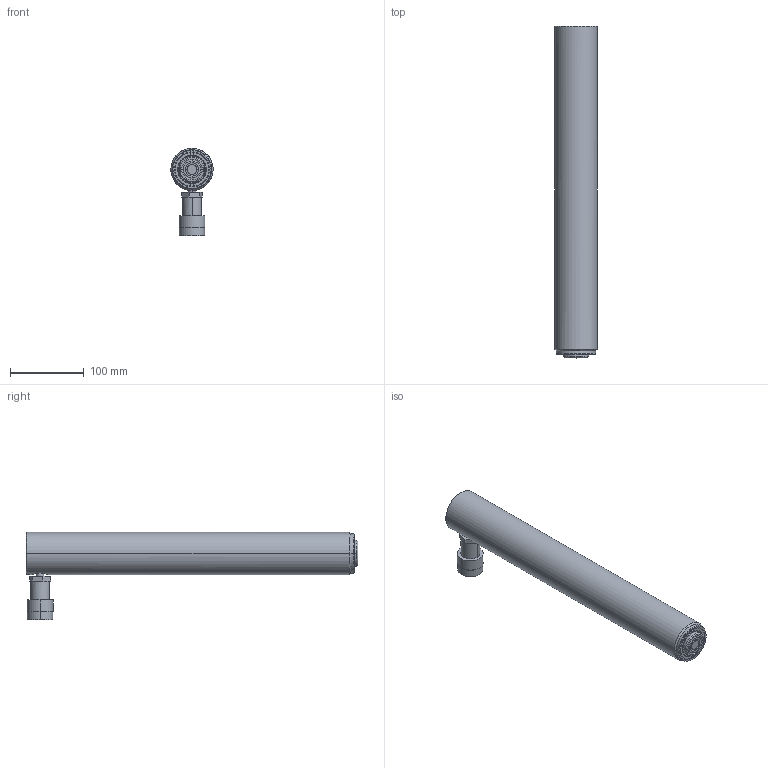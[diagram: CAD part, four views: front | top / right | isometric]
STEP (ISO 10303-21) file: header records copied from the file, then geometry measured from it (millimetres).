
FILE_DESCRIPTION((''),'2;1');
FILE_NAME('RC1014','2021-04-01T11:21:24',('mike.ward'),(''),'CREO PARAMETRIC BY PTC INC, 2018400','CREO PARAMETRIC BY PTC INC, 2018400','');
FILE_SCHEMA(('CONFIG_CONTROL_DESIGN'));
Length unit declared in the file: inch
Products named in the file (1): RC1014
Bounding box: 57.15 x 449.26 x 118.3 mm (x, y, z)
Volume: 480944.1 mm3; surface area: 225693.6 mm2
Topology: 1 solids, 23 shells, 169 faces, 414 edges, 264 vertices
Faces by surface type: cylinder 67, cone 42, plane 39, torus 21
Entity records: 5165 total; most frequent: CARTESIAN_POINT 1057, DIRECTION 978, ORIENTED_EDGE 710, AXIS2_PLACEMENT_3D 418, EDGE_CURVE 408, VERTEX_POINT 264, CIRCLE 248, EDGE_LOOP 191
